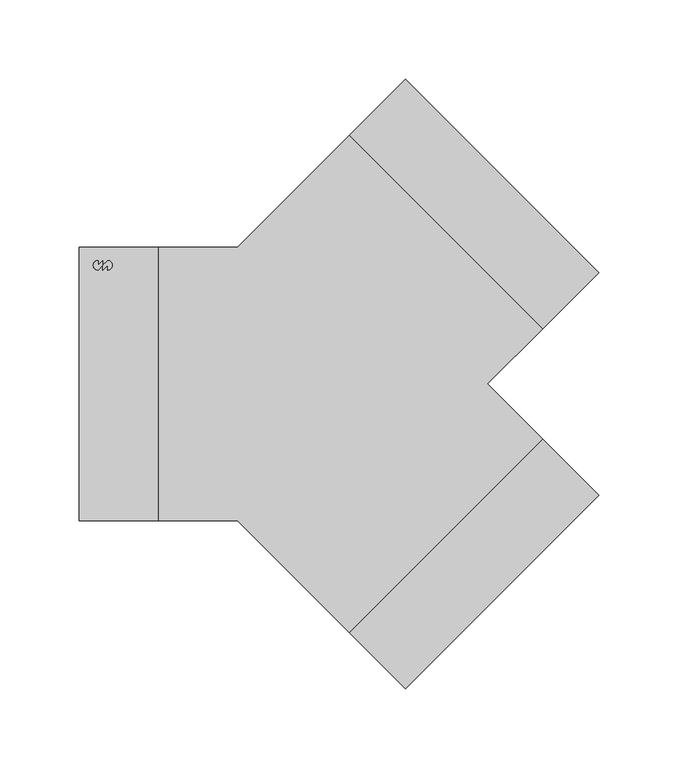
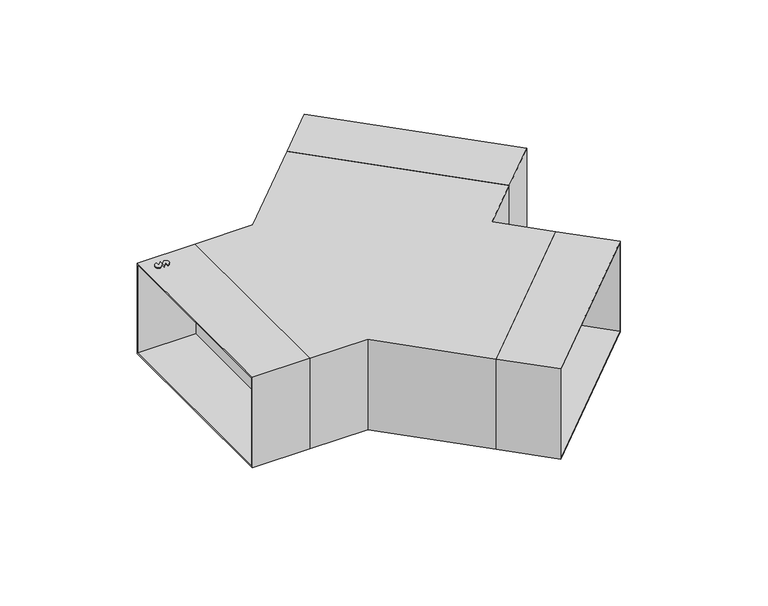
"""IFC4 building model written with IfcOpenShell, lengths in millimetres: duct fitting geometry, NLRS_57_DUF_UN_instortkanaal-broekstuk-45_LT_velu : VIK broekstuk."""

import ifcopenshell
import ifcopenshell.guid

model = None  # the IFC model being written
_history = None  # IfcOwnerHistory: only IFC2X3 demands one
_inside = {}  # id of a spatial element -> (the spatial element, [elements in it])
_under = {}  # id of a project, library or spatial element -> (it, [spatial elements below it])
_declared = {}  # id of a project -> (the project, [libraries it declares])
_typed = {}  # id of a type object -> (the type object, [elements of that type])
_made_of = {}  # id of a material, layer set ... -> (it, [elements and type objects made of it])


def new_model(schema):
    """Start an empty IFC model of exactly this schema.

    Asked for "IFC4X3", IfcOpenShell would pick the latest addendum, in which some entities
    have other attributes; the version numbers below select the first issue.
    IFC2X3 requires an IfcOwnerHistory on every rooted entity: one is made here for all.
    """
    global model, _history
    if schema == "IFC4X3":
        model = ifcopenshell.file(schema_version=(4, 3, 0, 0))
    else:
        model = ifcopenshell.file(schema=schema)
    _inside.clear()
    _under.clear()
    _declared.clear()
    _typed.clear()
    _made_of.clear()
    _history = None
    if model.schema == "IFC2X3":
        org = make("IfcOrganization", Name="unknown")
        user = make(
            "IfcPersonAndOrganization",
            ThePerson=make("IfcPerson", FamilyName="unknown"),
            TheOrganization=org,
        )
        app = make(
            "IfcApplication",
            ApplicationDeveloper=org,
            Version="unknown",
            ApplicationFullName="unknown",
            ApplicationIdentifier="unknown",
        )
        _history = make(
            "IfcOwnerHistory",
            OwningUser=user,
            OwningApplication=app,
            ChangeAction="ADDED",
            CreationDate=0,
        )
    return model


def make(cls, **values):
    """One entity of the class cls with the attributes given. An attribute that is None is left unset."""
    return model.create_entity(
        cls, **{name: value for name, value in values.items() if value is not None}
    )


def rooted(cls, **values):
    """An entity with a GlobalId (a new one), such as an element, a storey or a relation."""
    return make(cls, GlobalId=ifcopenshell.guid.new(), OwnerHistory=_history, **values)


def si_unit(unit_type, name, prefix=None):
    """IfcSIUnit, for example si_unit("LENGTHUNIT", "METRE", prefix="MILLI")."""
    return make("IfcSIUnit", UnitType=unit_type, Prefix=prefix, Name=name)


def assignment(units):
    """IfcUnitAssignment: the units of a project."""
    return None if units is None else make("IfcUnitAssignment", Units=units)


def point(xyz):
    """IfcCartesianPoint."""
    return None if xyz is None else make("IfcCartesianPoint", Coordinates=xyz)


def direction(xyz):
    """IfcDirection."""
    return None if xyz is None else make("IfcDirection", DirectionRatios=xyz)


def frame(location, z_axis=None, x_axis=None):
    """IfcAxis2Placement3D, a coordinate frame: its origin and axes. An axis left out is left unset."""
    return make(
        "IfcAxis2Placement3D",
        Location=point(location),
        Axis=direction(z_axis),
        RefDirection=direction(x_axis),
    )


def frame_2d(location, x_axis=None):
    """IfcAxis2Placement2D, a coordinate frame in the plane: its origin and x axis."""
    return make(
        "IfcAxis2Placement2D", Location=point(location), RefDirection=direction(x_axis)
    )


def origin():
    """The frame at (0, 0, 0) with its axes left unset."""
    return frame((0.0, 0.0, 0.0))


def place(relative_to, where):
    """IfcLocalPlacement: puts the frame where relative to a parent placement (None: the world)."""
    return make(
        "IfcLocalPlacement", PlacementRelTo=relative_to, RelativePlacement=where
    )


def context(
    kind, dimensions, precision=None, world=None, true_north=None, identifier=None
):
    """IfcGeometricRepresentationContext, for example the 3D "Model" context."""
    return make(
        "IfcGeometricRepresentationContext",
        ContextIdentifier=identifier,
        ContextType=kind,
        CoordinateSpaceDimension=dimensions,
        Precision=precision,
        WorldCoordinateSystem=world,
        TrueNorth=true_north,
    )


def project(units=None, contexts=None):
    """IfcProject with its units and contexts."""
    return rooted(
        "IfcProject",
        Name="project",
        RepresentationContexts=contexts,
        UnitsInContext=assignment(units),
    )


def spatial(cls, under=None, at=None, **own):
    """A site, building, storey or space (cls), placed at a placement, below another one or the project."""
    s = rooted(cls, ObjectPlacement=at, **own)
    if under is not None:
        _under.setdefault(under.id(), (under, []))[1].append(s)
    return s


def polyline(points):
    """IfcPolyline through the points."""
    return make("IfcPolyline", Points=[point(p) for p in points])


def circle_curve(where, radius):
    """IfcCircle in the frame where."""
    return make("IfcCircle", Position=where, Radius=radius)


def trimmed(basis, trim1, trim2, sense, master):
    """IfcTrimmedCurve: the piece of a basis curve between two trims."""
    return make(
        "IfcTrimmedCurve",
        BasisCurve=basis,
        Trim1=trim1,
        Trim2=trim2,
        SenseAgreement=sense,
        MasterRepresentation=master,
    )


def segment(curve, same_sense, transition):
    """IfcCompositeCurveSegment."""
    return make(
        "IfcCompositeCurveSegment",
        Transition=transition,
        SameSense=same_sense,
        ParentCurve=curve,
    )


def composite_curve(segments, self_intersect=None):
    """IfcCompositeCurve: segments joined end to end."""
    return make("IfcCompositeCurve", Segments=segments, SelfIntersect=self_intersect)


def outline(outer, holes=None, kind="AREA"):
    """IfcArbitraryClosedProfileDef: a profile drawn as a closed curve; with holes, ...WithVoids."""
    if holes is None:
        return make("IfcArbitraryClosedProfileDef", ProfileType=kind, OuterCurve=outer)
    return make(
        "IfcArbitraryProfileDefWithVoids",
        ProfileType=kind,
        OuterCurve=outer,
        InnerCurves=holes,
    )


def extrude(swept, where, along, depth):
    """IfcExtrudedAreaSolid: the profile swept, set in the frame where, extruded along a direction by depth."""
    return make(
        "IfcExtrudedAreaSolid",
        SweptArea=swept,
        Position=where,
        ExtrudedDirection=direction(along),
        Depth=depth,
    )


def shape(context_of_items, identifier, shape_type, items):
    """IfcShapeRepresentation: the items that make up one representation, for example the "Body"."""
    return make(
        "IfcShapeRepresentation",
        ContextOfItems=context_of_items,
        RepresentationIdentifier=identifier,
        RepresentationType=shape_type,
        Items=items,
    )


def source(mapping_origin, context_of_items, identifier, shape_type, items):
    """IfcRepresentationMap: a shape defined once, which mapped items show again and again."""
    return make(
        "IfcRepresentationMap",
        MappingOrigin=mapping_origin,
        MappedRepresentation=shape(context_of_items, identifier, shape_type, items),
    )


def transform(
    local_origin,
    x_axis=None,
    y_axis=None,
    z_axis=None,
    scale=None,
    scale2=None,
    scale3=None,
    uniform=True,
):
    """IfcCartesianTransformationOperator3D, or its non-uniform kind. x_axis, y_axis, z_axis: its Axis1, 2, 3."""
    if uniform:
        return make(
            "IfcCartesianTransformationOperator3D",
            Axis1=direction(x_axis),
            Axis2=direction(y_axis),
            LocalOrigin=point(local_origin),
            Scale=scale,
            Axis3=direction(z_axis),
        )
    return make(
        "IfcCartesianTransformationOperator3DnonUniform",
        Axis1=direction(x_axis),
        Axis2=direction(y_axis),
        LocalOrigin=point(local_origin),
        Scale=scale,
        Axis3=direction(z_axis),
        Scale2=scale2,
        Scale3=scale3,
    )


def mapped(mapping_source, mapping_target):
    """IfcMappedItem: shows the shape of a source again, moved by a transform."""
    return make(
        "IfcMappedItem", MappingSource=mapping_source, MappingTarget=mapping_target
    )


def made_of(thing, what):
    """Note that an element or type object is made of a material, layer set ...; save() writes the relation."""
    if what is not None:
        _made_of.setdefault(what.id(), (what, []))[1].append(thing)
    return thing


def element(
    cls,
    number,
    at=None,
    inside=None,
    cuts=None,
    type_object=None,
    material=None,
    context=None,
    identifier="Body",
    shape_type=None,
    held_by="IfcProductDefinitionShape",
    body=None,
    shapes=None,
    **own,
):
    """One element of the class cls, such as IfcWall. Its Tag is "e" and its number.

    at: its placement. inside: the storey or other place that contains it. cuts: it is an
    opening in that element (IfcRelVoidsElement). A single representation is given by context,
    identifier, shape_type and body (its items); several are given by shapes. held_by: the class
    of the entity that holds the representations. save() writes the other relations.
    """
    e = rooted(cls, Tag="e%d" % number, ObjectPlacement=at, **own)
    if body is not None:
        shapes = [shape(context, identifier, shape_type, body)]
    if shapes is not None:
        e.Representation = make(held_by, Representations=shapes)
    if inside is not None:
        _inside.setdefault(inside.id(), (inside, []))[1].append(e)
    if cuts is not None:
        rooted(
            "IfcRelVoidsElement", RelatingBuildingElement=cuts, RelatedOpeningElement=e
        )
    if type_object is not None:
        _typed.setdefault(type_object.id(), (type_object, []))[1].append(e)
    return made_of(e, material)


def aggregate(whole, parts):
    """IfcRelAggregates: a whole, such as a stair, and the parts it consists of."""
    return rooted("IfcRelAggregates", RelatingObject=whole, RelatedObjects=parts)


def save(model, path):
    """Write the relations noted so far, then the file.

    IfcRelAggregates (storeys below a building ...), IfcRelContainedInSpatialStructure (elements
    in a storey), IfcRelDefinesByType, IfcRelAssociatesMaterial and IfcRelDeclares: one each for
    every whole, place, type object, material and project.
    """
    for whole, parts in _under.values():
        aggregate(whole, parts)
    for where, things in _inside.values():
        rooted(
            "IfcRelContainedInSpatialStructure",
            RelatedElements=things,
            RelatingStructure=where,
        )
    for kind, things in _typed.values():
        rooted("IfcRelDefinesByType", RelatedObjects=things, RelatingType=kind)
    for what, things in _made_of.values():
        rooted("IfcRelAssociatesMaterial", RelatedObjects=things, RelatingMaterial=what)
    for by, libraries in _declared.values():
        rooted("IfcRelDeclares", RelatingContext=by, RelatedDefinitions=libraries)
    model.write(path)


def duct_fitting_ca5e9259(model_context):
    return source(origin(), model_context, "Body", "SweptSolid", [
        extrude(outline(composite_curve([segment(polyline([(-118.0, 72.0), (-118.0, 75.0), (-121.0, 72.0), (-121.0, 75.0), (-118.0, 78.0)]), True, "CONTINUOUS"), segment(trimmed(circle_curve(frame_2d((-118.0, 75.0)), 3.0), [point((-118.0, 78.0))], [point((-118.0, 72.0))], False, "CARTESIAN"), True, "CONTINUOUS")], self_intersect=False)), frame((0.0, 0.0, -42.5), z_axis=(0.0, 0.0, 1.0), x_axis=(1.0, 0.0, 0.0)), (0.0, 0.0, 1.0), 1.0),
        extrude(outline(composite_curve([segment(polyline([(-124.0, 78.0), (-124.0, 75.0), (-121.0, 78.0), (-121.0, 75.0), (-124.0, 72.0)]), True, "CONTINUOUS"), segment(trimmed(circle_curve(frame_2d((-124.0, 75.0)), 3.0), [point((-124.0, 72.0))], [point((-124.0, 78.0))], False, "CARTESIAN"), True, "CONTINUOUS")], self_intersect=False)), frame((0.0, 0.0, -42.5), z_axis=(0.0, 0.0, 1.0), x_axis=(1.0, 0.0, 0.0)), (0.0, 0.0, 1.0), 1.0),
        extrude(outline(composite_curve([segment(polyline([(-124.0, 78.0), (-124.0, 75.0), (-121.0, 78.0), (-121.0, 75.0), (-124.0, 72.0)]), True, "CONTINUOUS"), segment(trimmed(circle_curve(frame_2d((-124.0, 75.0)), 3.0), [point((-124.0, 72.0))], [point((-124.0, 78.0))], False, "CARTESIAN"), True, "CONTINUOUS")], self_intersect=False)), frame((0.0, 0.0, 41.5), z_axis=(0.0, 0.0, 1.0), x_axis=(1.0, 0.0, 0.0)), (0.0, 0.0, 1.0), 1.0),
        extrude(outline(composite_curve([segment(polyline([(-118.0, 72.0), (-118.0, 75.0), (-121.0, 72.0), (-121.0, 75.0), (-118.0, 78.0)]), True, "CONTINUOUS"), segment(trimmed(circle_curve(frame_2d((-118.0, 75.0)), 3.0), [point((-118.0, 78.0))], [point((-118.0, 72.0))], False, "CARTESIAN"), True, "CONTINUOUS")], self_intersect=False)), frame((0.0, 0.0, 41.5), z_axis=(0.0, 0.0, 1.0), x_axis=(1.0, 0.0, 0.0)), (0.0, 0.0, 1.0), 1.0),
        extrude(outline(polyline([(172.9999999, -83.0), (0.0, -83.0), (0.0, 0.0), (172.9999999, 0.0), (172.9999999, -83.0)]), holes=[polyline([(171.5, -1.5), (1.5, -1.5), (1.5, -81.5), (171.5, -81.5), (171.5, -1.5)])]), frame((157.3312588, 35.0017857, 41.5), z_axis=(0.7071067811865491, 0.707106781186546, 0.0), x_axis=(-0.707106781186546, 0.7071067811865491, 0.0)), (0.0, 0.0, 1.0), 50.0),
        extrude(outline(polyline([(171.5, -1.5), (-1.5, -1.5), (-1.5, 81.5), (171.5, 81.5), (171.5, -1.5)]), holes=[polyline([(170.0, 80.0), (0.0, 80.0), (0.0, 0.0), (170.0, 0.0), (170.0, 80.0)])]), frame((71.4177849, -191.6259377, 40.0), z_axis=(-0.7071067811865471, 0.707106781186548, 0.0), x_axis=(0.707106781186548, 0.7071067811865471, 0.0)), (0.0, 0.0, 1.0), 50.0),
        extrude(outline(polyline([(-86.5, 41.5), (86.5, 41.5), (86.5, -41.5), (-86.5, -41.5), (-86.5, 41.5)]), holes=[polyline([(-85.0, -40.0), (85.0, -40.0), (85.0, 40.0), (-85.0, 40.0), (-85.0, -40.0)])]), frame((-136.0, 0.0, 0.0), z_axis=(1.0, 0.0, 0.0), x_axis=(0.0, 1.0, 0.0)), (0.0, 0.0, 1.0), 50.0),
        extrude(outline(polyline([(-86.0, -86.5), (-86.0, 86.5), (-35.8294731, 86.5), (35.0017857, 157.3312588), (157.3312588, 35.0017857), (122.3294731, 0.0), (157.3312588, -35.0017857), (35.0017857, -157.3312588), (-35.8294731, -86.5), (-86.0, -86.5)])), frame((0.0, 0.0, -41.5), z_axis=(0.0, 0.0, 1.0), x_axis=(1.0, 0.0, 0.0)), (0.0, 0.0, 1.0), 83.0),
    ])


if __name__ == "__main__":
    model = new_model("IFC4")
    model_context = context("Model", 3, world=origin())
    ifc_project = project(units=[si_unit("LENGTHUNIT", "METRE", prefix="MILLI")], contexts=[model_context])
    site = spatial("IfcSite", under=ifc_project)
    building = spatial("IfcBuilding", under=site)
    placement = place(None, origin())
    duct_fitting_shape = duct_fitting_ca5e9259(model_context)
    element("IfcDuctFitting", 1, ObjectType="NLRS_57_DUF_UN_instortkanaal-broekstuk-45_LT_velu : VIK broekstuk", at=placement, inside=building, context=model_context, shape_type="MappedRepresentation", body=[
        mapped(duct_fitting_shape, transform((0.0, 0.0, 0.0), x_axis=(1.0, 0.0, 0.0), y_axis=(0.0, 1.0, 0.0), z_axis=(0.0, 0.0, 1.0))),
    ])
    save(model, "model.ifc")
